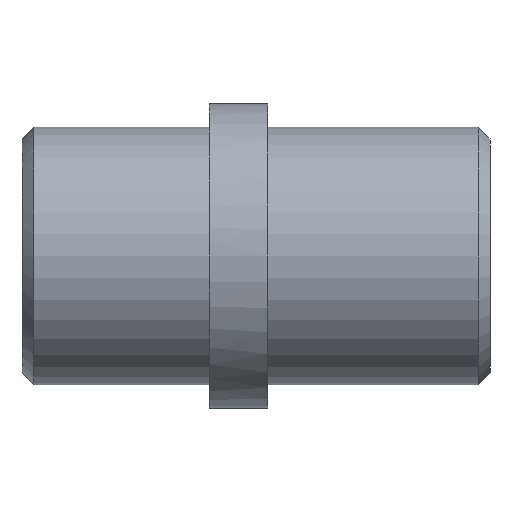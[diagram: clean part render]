
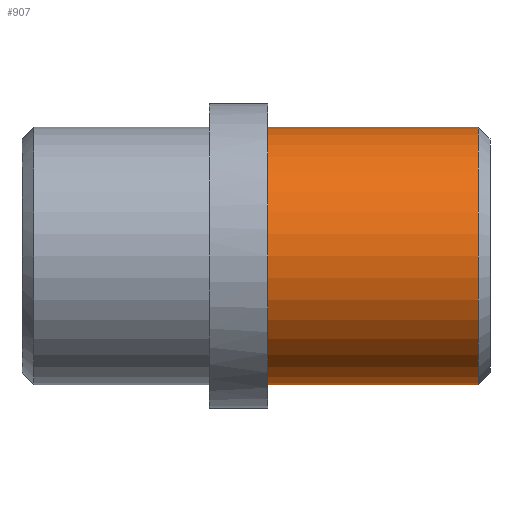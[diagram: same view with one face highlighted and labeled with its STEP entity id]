
A CAD part, front view. The second image highlights one B-rep face of the part: STEP entity #907.
In plain terms, the highlighted cylindrical face has radius 11 mm (diameter 22 mm), a partial arc.
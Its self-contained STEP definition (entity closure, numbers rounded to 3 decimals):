
#773=CARTESIAN_POINT('Vertex',(0.,0.,-11.)) ;
#778=CARTESIAN_POINT('Axis2P3D Location',(0.,0.,0.)) ;
#782=CARTESIAN_POINT('Vertex',(0.,-11.,0.)) ;
#785=CARTESIAN_POINT('Axis2P3D Location',(0.,0.,0.)) ;
#789=CARTESIAN_POINT('Vertex',(0.,0.,11.)) ;
#813=CARTESIAN_POINT('Vertex',(18.,0.,11.)) ;
#820=CARTESIAN_POINT('Vertex',(18.,0.,-11.)) ;
#849=CARTESIAN_POINT('Axis2P3D Location',(18.,0.,0.)) ;
#853=CARTESIAN_POINT('Vertex',(18.,-11.,0.)) ;
#856=CARTESIAN_POINT('Axis2P3D Location',(18.,0.,0.)) ;
#875=CARTESIAN_POINT('Line Origine',(19.,0.,11.)) ;
#880=CARTESIAN_POINT('Line Origine',(19.,0.,-11.)) ;
#894=CARTESIAN_POINT('Axis2P3D Location',(19.,0.,0.)) ;
#779=DIRECTION('Axis2P3D Direction',(1.,0.,-0.)) ;
#786=DIRECTION('Axis2P3D Direction',(1.,0.,-0.)) ;
#850=DIRECTION('Axis2P3D Direction',(-1.,0.,0.)) ;
#857=DIRECTION('Axis2P3D Direction',(-1.,0.,0.)) ;
#876=DIRECTION('Vector Direction',(-1.,0.,0.)) ;
#881=DIRECTION('Vector Direction',(-1.,0.,0.)) ;
#895=DIRECTION('Axis2P3D Direction',(-1.,-0.,-0.)) ;
#896=DIRECTION('Axis2P3D XDirection',(0.,0.,-1.)) ;
#780=AXIS2_PLACEMENT_3D('Circle Axis2P3D',#778,#779,$) ;
#787=AXIS2_PLACEMENT_3D('Circle Axis2P3D',#785,#786,$) ;
#851=AXIS2_PLACEMENT_3D('Circle Axis2P3D',#849,#850,$) ;
#858=AXIS2_PLACEMENT_3D('Circle Axis2P3D',#856,#857,$) ;
#897=AXIS2_PLACEMENT_3D('Cylinder Axis2P3D',#894,#895,#896) ;
#900=ORIENTED_EDGE('',*,*,#884,.T.) ;
#901=ORIENTED_EDGE('',*,*,#860,.F.) ;
#902=ORIENTED_EDGE('',*,*,#855,.F.) ;
#903=ORIENTED_EDGE('',*,*,#879,.T.) ;
#904=ORIENTED_EDGE('',*,*,#791,.T.) ;
#905=ORIENTED_EDGE('',*,*,#784,.T.) ;
#877=VECTOR('Line Direction',#876,1.) ;
#882=VECTOR('Line Direction',#881,1.) ;
#907=ADVANCED_FACE('355-16X40',(#906),#898,.T.) ;
#781=CIRCLE('generated circle',#780,11.) ;
#788=CIRCLE('generated circle',#787,11.) ;
#852=CIRCLE('generated circle',#851,11.) ;
#859=CIRCLE('generated circle',#858,11.) ;
#898=CYLINDRICAL_SURFACE('generated cylinder',#897,11.) ;
#784=EDGE_CURVE('',#783,#774,#781,.T.) ;
#791=EDGE_CURVE('',#790,#783,#788,.T.) ;
#855=EDGE_CURVE('',#814,#854,#852,.F.) ;
#860=EDGE_CURVE('',#854,#821,#859,.F.) ;
#879=EDGE_CURVE('',#814,#790,#878,.T.) ;
#884=EDGE_CURVE('',#774,#821,#883,.F.) ;
#899=EDGE_LOOP('',(#900,#901,#902,#903,#904,#905)) ;
#906=FACE_OUTER_BOUND('',#899,.T.) ;
#878=LINE('Line',#875,#877) ;
#883=LINE('Line',#880,#882) ;
#774=VERTEX_POINT('',#773) ;
#783=VERTEX_POINT('',#782) ;
#790=VERTEX_POINT('',#789) ;
#814=VERTEX_POINT('',#813) ;
#821=VERTEX_POINT('',#820) ;
#854=VERTEX_POINT('',#853) ;
